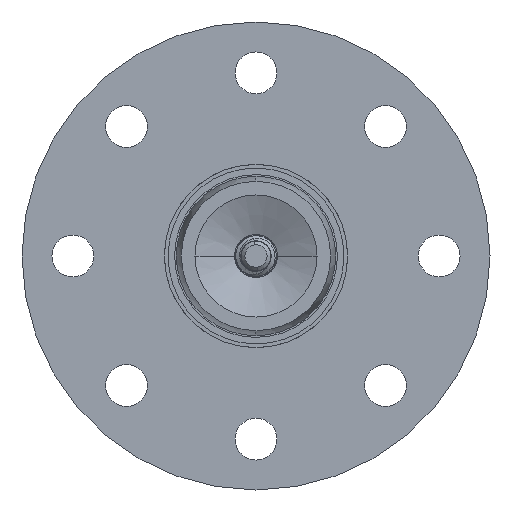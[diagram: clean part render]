
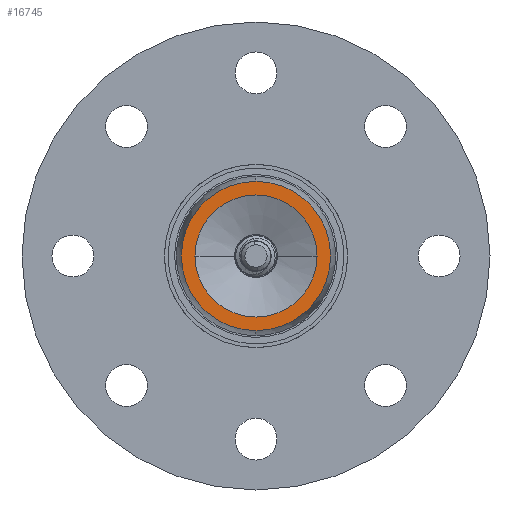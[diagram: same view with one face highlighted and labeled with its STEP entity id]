
A CAD part, left-side view. The second image highlights one B-rep face of the part: STEP entity #16745.
In plain terms, the highlighted planar face has unit normal (-1, 0, 0).
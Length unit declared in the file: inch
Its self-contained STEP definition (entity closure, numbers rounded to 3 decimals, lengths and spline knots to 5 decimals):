
#325 = EDGE_LOOP ( 'NONE', ( #7040, #10683 ) ) ;
#393 = DIRECTION ( 'NONE',  ( -1., 0., 0. ) ) ;
#675 = EDGE_LOOP ( 'NONE', ( #8551, #10769 ) ) ;
#896 = DIRECTION ( 'NONE',  ( 1., 0., 0. ) ) ;
#1451 = CARTESIAN_POINT ( 'NONE',  ( -2.25, 0., 0. ) ) ;
#1738 = CARTESIAN_POINT ( 'NONE',  ( -2.25, 0., -0.45825 ) ) ;
#2789 = EDGE_CURVE ( 'NONE', #14311, #5487, #8978, .T. ) ;
#2822 = DIRECTION ( 'NONE',  ( 0., 0., 1. ) ) ;
#2887 = CARTESIAN_POINT ( 'NONE',  ( -2.25, 0., 0.45825 ) ) ;
#4149 = AXIS2_PLACEMENT_3D ( 'NONE', #6720, #16214, #8082 ) ;
#4374 = CARTESIAN_POINT ( 'NONE',  ( -2.25, 0.5625, 0. ) ) ;
#4905 = EDGE_CURVE ( 'NONE', #5487, #14311, #15495, .T. ) ;
#5151 = VERTEX_POINT ( 'NONE', #5273 ) ;
#5273 = CARTESIAN_POINT ( 'NONE',  ( -2.25, -0.375, 0. ) ) ;
#5487 = VERTEX_POINT ( 'NONE', #2887 ) ;
#5759 = DIRECTION ( 'NONE',  ( 0., 0., -1. ) ) ;
#5887 = CIRCLE ( 'NONE', #4149, 0.375 ) ;
#6329 = CIRCLE ( 'NONE', #14345, 0.375 ) ;
#6720 = CARTESIAN_POINT ( 'NONE',  ( -2.25, 0., 0. ) ) ;
#7020 = AXIS2_PLACEMENT_3D ( 'NONE', #8544, #393, #9905 ) ;
#7040 = ORIENTED_EDGE ( 'NONE', *, *, #4905, .T. ) ;
#7052 = PLANE ( 'NONE',  #7991 ) ;
#7525 = CARTESIAN_POINT ( 'NONE',  ( -2.25, 0.375, 0. ) ) ;
#7589 = EDGE_CURVE ( 'NONE', #5151, #10535, #6329, .T. ) ;
#7991 = AXIS2_PLACEMENT_3D ( 'NONE', #4374, #13882, #5759 ) ;
#8082 = DIRECTION ( 'NONE',  ( 0., 1., 0. ) ) ;
#8544 = CARTESIAN_POINT ( 'NONE',  ( -2.25, 0., 0. ) ) ;
#8551 = ORIENTED_EDGE ( 'NONE', *, *, #11213, .T. ) ;
#8835 = AXIS2_PLACEMENT_3D ( 'NONE', #1451, #10962, #2822 ) ;
#8978 = CIRCLE ( 'NONE', #8835, 0.45825 ) ;
#8992 = FACE_BOUND ( 'NONE', #675, .T. ) ;
#9048 = CARTESIAN_POINT ( 'NONE',  ( -2.25, 0., 0. ) ) ;
#9905 = DIRECTION ( 'NONE',  ( 0., 0., 1. ) ) ;
#10398 = DIRECTION ( 'NONE',  ( 0., 1., 0. ) ) ;
#10535 = VERTEX_POINT ( 'NONE', #7525 ) ;
#10683 = ORIENTED_EDGE ( 'NONE', *, *, #2789, .T. ) ;
#10769 = ORIENTED_EDGE ( 'NONE', *, *, #7589, .T. ) ;
#10962 = DIRECTION ( 'NONE',  ( -1., 0., 0. ) ) ;
#11213 = EDGE_CURVE ( 'NONE', #10535, #5151, #5887, .T. ) ;
#12164 = FACE_OUTER_BOUND ( 'NONE', #325, .T. ) ;
#13882 = DIRECTION ( 'NONE',  ( 1., 0., 0. ) ) ;
#14311 = VERTEX_POINT ( 'NONE', #1738 ) ;
#14345 = AXIS2_PLACEMENT_3D ( 'NONE', #9048, #896, #10398 ) ;
#15495 = CIRCLE ( 'NONE', #7020, 0.45825 ) ;
#16214 = DIRECTION ( 'NONE',  ( 1., 0., 0. ) ) ;
#16745 = ADVANCED_FACE ( 'NONE', ( #12164, #8992 ), #7052, .F. ) ;
